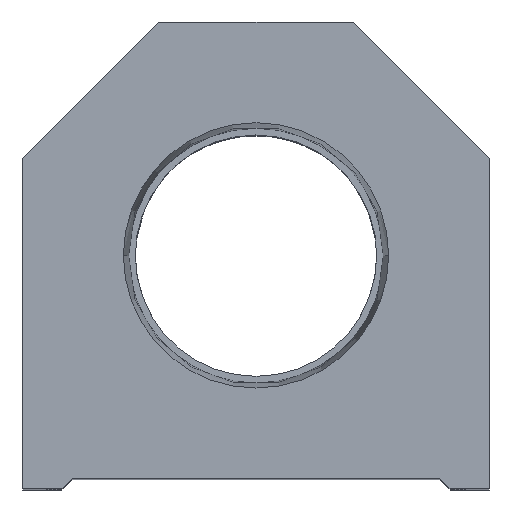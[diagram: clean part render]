
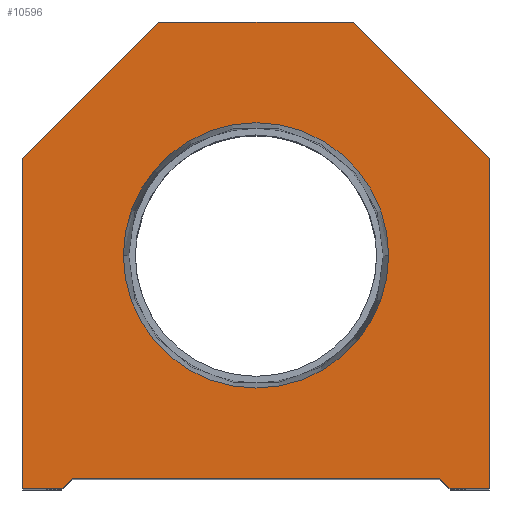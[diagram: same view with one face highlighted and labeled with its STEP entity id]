
A CAD part, top view. The second image highlights one B-rep face of the part: STEP entity #10596.
In plain terms, the highlighted planar face has unit normal (0, 0, 1).
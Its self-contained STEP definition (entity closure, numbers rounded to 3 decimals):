
#106 = ORIENTED_EDGE ( 'NONE', *, *, #10140, .T. ) ;
#137 = AXIS2_PLACEMENT_3D ( 'NONE', #11227, #3899, #8823 ) ;
#206 = VERTEX_POINT ( 'NONE', #5279 ) ;
#274 = CARTESIAN_POINT ( 'NONE',  ( 18.5, 0., 0. ) ) ;
#480 = EDGE_LOOP ( 'NONE', ( #6355, #106, #10506, #10677, #14875, #8864, #3995, #13281, #3824, #8619 ) ) ;
#786 = CARTESIAN_POINT ( 'NONE',  ( 17.5, 0., 0. ) ) ;
#830 = CARTESIAN_POINT ( 'NONE',  ( 22.25, 31.5, 0. ) ) ;
#876 = VERTEX_POINT ( 'NONE', #11090 ) ;
#1039 = CARTESIAN_POINT ( 'NONE',  ( -18.5, 0., 0. ) ) ;
#1242 = CARTESIAN_POINT ( 'NONE',  ( -9.25, 9.25, 0. ) ) ;
#1522 = VECTOR ( 'NONE', #12008, 1000. ) ;
#1820 = CARTESIAN_POINT ( 'NONE',  ( 12.647, 22.25, 0. ) ) ;
#1941 = DIRECTION ( 'NONE',  ( -0.707, -0.707, 0. ) ) ;
#2078 = VECTOR ( 'NONE', #1941, 1000. ) ;
#2310 = VERTEX_POINT ( 'NONE', #274 ) ;
#2367 = EDGE_CURVE ( 'NONE', #2310, #15479, #13277, .T. ) ;
#2504 = DIRECTION ( 'NONE',  ( 0., 1., 0. ) ) ;
#2578 = VERTEX_POINT ( 'NONE', #1820 ) ;
#2599 = DIRECTION ( 'NONE',  ( 0.707, 0.707, 0. ) ) ;
#2843 = CARTESIAN_POINT ( 'NONE',  ( -22.25, 31.5, 0. ) ) ;
#2851 = VECTOR ( 'NONE', #12780, 1000. ) ;
#2993 = EDGE_CURVE ( 'NONE', #15479, #3137, #15001, .T. ) ;
#3123 = DIRECTION ( 'NONE',  ( 1., 0., 0. ) ) ;
#3137 = VERTEX_POINT ( 'NONE', #11966 ) ;
#3159 = VERTEX_POINT ( 'NONE', #14269 ) ;
#3286 = FACE_OUTER_BOUND ( 'NONE', #480, .T. ) ;
#3589 = VECTOR ( 'NONE', #12261, 1000. ) ;
#3751 = EDGE_CURVE ( 'NONE', #11982, #13269, #15167, .T. ) ;
#3753 = EDGE_CURVE ( 'NONE', #3137, #6249, #14201, .T. ) ;
#3824 = ORIENTED_EDGE ( 'NONE', *, *, #3751, .T. ) ;
#3842 = CARTESIAN_POINT ( 'NONE',  ( 0., 22.25, 0. ) ) ;
#3899 = DIRECTION ( 'NONE',  ( 0., 0., 1. ) ) ;
#3934 = EDGE_CURVE ( 'NONE', #6249, #11982, #4956, .T. ) ;
#3995 = ORIENTED_EDGE ( 'NONE', *, *, #3753, .T. ) ;
#4142 = EDGE_CURVE ( 'NONE', #206, #8662, #13613, .T. ) ;
#4180 = DIRECTION ( 'NONE',  ( 0., -1., 0. ) ) ;
#4233 = CARTESIAN_POINT ( 'NONE',  ( 0., 0., 0. ) ) ;
#4357 = VECTOR ( 'NONE', #14824, 1000. ) ;
#4607 = ORIENTED_EDGE ( 'NONE', *, *, #14519, .F. ) ;
#4694 = LINE ( 'NONE', #9618, #13055 ) ;
#4713 = CIRCLE ( 'NONE', #137, 12.647 ) ;
#4913 = LINE ( 'NONE', #1242, #11926 ) ;
#4956 = LINE ( 'NONE', #11092, #4357 ) ;
#5279 = CARTESIAN_POINT ( 'NONE',  ( -22.25, 0., 0. ) ) ;
#5701 = VERTEX_POINT ( 'NONE', #12185 ) ;
#6112 = CARTESIAN_POINT ( 'NONE',  ( -9.25, 44.5, 0. ) ) ;
#6249 = VERTEX_POINT ( 'NONE', #6670 ) ;
#6351 = EDGE_CURVE ( 'NONE', #13269, #206, #6513, .T. ) ;
#6355 = ORIENTED_EDGE ( 'NONE', *, *, #4142, .T. ) ;
#6513 = LINE ( 'NONE', #11570, #9564 ) ;
#6670 = CARTESIAN_POINT ( 'NONE',  ( 9.25, 44.5, 0. ) ) ;
#7089 = EDGE_CURVE ( 'NONE', #876, #3159, #14531, .T. ) ;
#7412 = CIRCLE ( 'NONE', #8448, 12.647 ) ;
#7710 = VECTOR ( 'NONE', #2504, 1000. ) ;
#7762 = DIRECTION ( 'NONE',  ( 0.707, -0.707, 0. ) ) ;
#8448 = AXIS2_PLACEMENT_3D ( 'NONE', #3842, #8761, #11243 ) ;
#8543 = EDGE_LOOP ( 'NONE', ( #4607, #11463 ) ) ;
#8619 = ORIENTED_EDGE ( 'NONE', *, *, #6351, .T. ) ;
#8662 = VERTEX_POINT ( 'NONE', #1039 ) ;
#8761 = DIRECTION ( 'NONE',  ( 0., 0., 1. ) ) ;
#8823 = DIRECTION ( 'NONE',  ( 1., 0., 0. ) ) ;
#8864 = ORIENTED_EDGE ( 'NONE', *, *, #2993, .T. ) ;
#9564 = VECTOR ( 'NONE', #4180, 1000. ) ;
#9618 = CARTESIAN_POINT ( 'NONE',  ( 9.25, 9.25, 0. ) ) ;
#9925 = EDGE_CURVE ( 'NONE', #5701, #2578, #4713, .T. ) ;
#10140 = EDGE_CURVE ( 'NONE', #8662, #876, #4913, .T. ) ;
#10224 = CARTESIAN_POINT ( 'NONE',  ( 22.25, 0., 0. ) ) ;
#10506 = ORIENTED_EDGE ( 'NONE', *, *, #7089, .T. ) ;
#10596 = ADVANCED_FACE ( 'NONE', ( #15525, #3286 ), #10673, .T. ) ;
#10673 = PLANE ( 'NONE',  #13457 ) ;
#10677 = ORIENTED_EDGE ( 'NONE', *, *, #14734, .T. ) ;
#10833 = VECTOR ( 'NONE', #13803, 1000. ) ;
#11090 = CARTESIAN_POINT ( 'NONE',  ( -17.5, 1., 0. ) ) ;
#11092 = CARTESIAN_POINT ( 'NONE',  ( 9.25, 44.5, 0. ) ) ;
#11227 = CARTESIAN_POINT ( 'NONE',  ( 0., 22.25, 0. ) ) ;
#11237 = CARTESIAN_POINT ( 'NONE',  ( -17.5, 0., 0. ) ) ;
#11243 = DIRECTION ( 'NONE',  ( 1., 0., 0. ) ) ;
#11463 = ORIENTED_EDGE ( 'NONE', *, *, #9925, .F. ) ;
#11570 = CARTESIAN_POINT ( 'NONE',  ( -22.25, 0., 0. ) ) ;
#11792 = CARTESIAN_POINT ( 'NONE',  ( 22.25, 0., 0. ) ) ;
#11926 = VECTOR ( 'NONE', #2599, 1000. ) ;
#11966 = CARTESIAN_POINT ( 'NONE',  ( 22.25, 31.5, 0. ) ) ;
#11982 = VERTEX_POINT ( 'NONE', #6112 ) ;
#12008 = DIRECTION ( 'NONE',  ( 1., 0., 0. ) ) ;
#12185 = CARTESIAN_POINT ( 'NONE',  ( -12.647, 22.25, 0. ) ) ;
#12261 = DIRECTION ( 'NONE',  ( 1., 0., 0. ) ) ;
#12380 = CARTESIAN_POINT ( 'NONE',  ( -17.5, 1., 0. ) ) ;
#12780 = DIRECTION ( 'NONE',  ( -0.707, 0.707, 0. ) ) ;
#12940 = CARTESIAN_POINT ( 'NONE',  ( -22.25, 31.5, 0. ) ) ;
#13055 = VECTOR ( 'NONE', #7762, 1000. ) ;
#13269 = VERTEX_POINT ( 'NONE', #2843 ) ;
#13277 = LINE ( 'NONE', #786, #1522 ) ;
#13281 = ORIENTED_EDGE ( 'NONE', *, *, #3934, .T. ) ;
#13457 = AXIS2_PLACEMENT_3D ( 'NONE', #4233, #14094, #3123 ) ;
#13613 = LINE ( 'NONE', #11237, #3589 ) ;
#13803 = DIRECTION ( 'NONE',  ( 1., 0., 0. ) ) ;
#14094 = DIRECTION ( 'NONE',  ( 0., 0., 1. ) ) ;
#14201 = LINE ( 'NONE', #830, #2851 ) ;
#14269 = CARTESIAN_POINT ( 'NONE',  ( 17.5, 1., 0. ) ) ;
#14519 = EDGE_CURVE ( 'NONE', #2578, #5701, #7412, .T. ) ;
#14531 = LINE ( 'NONE', #12380, #10833 ) ;
#14734 = EDGE_CURVE ( 'NONE', #3159, #2310, #4694, .T. ) ;
#14824 = DIRECTION ( 'NONE',  ( -1., 0., 0. ) ) ;
#14875 = ORIENTED_EDGE ( 'NONE', *, *, #2367, .T. ) ;
#15001 = LINE ( 'NONE', #10224, #7710 ) ;
#15167 = LINE ( 'NONE', #12940, #2078 ) ;
#15479 = VERTEX_POINT ( 'NONE', #11792 ) ;
#15525 = FACE_BOUND ( 'NONE', #8543, .T. ) ;
